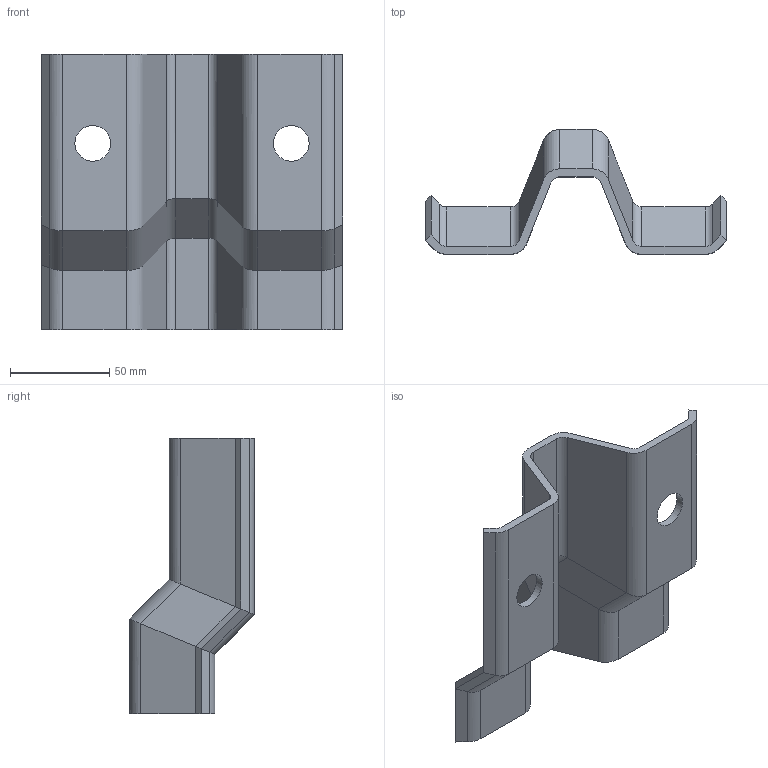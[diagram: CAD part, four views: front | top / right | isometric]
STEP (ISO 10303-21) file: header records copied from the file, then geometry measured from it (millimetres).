
FILE_DESCRIPTION(/* description */ (''),/* implementation_level */ '2;1');
FILE_NAME(/* name */ 'C175.stp',/* time_stamp */ '2023-07-03T10:42:47+02:00',/* author */ ('woriedl'),/* organization */ (''),/* preprocessor_version */ 'ST-DEVELOPER v19.2',/* originating_system */ 'AutoCAD Mechanical',/* authorisation */ '');
FILE_SCHEMA (('AUTOMOTIVE_DESIGN { 1 0 10303 214 3 1 1 }'));
Length unit declared in the file: centimetre
Products named in the file (1): Product
Bounding box: 151.72 x 63 x 139 mm (x, y, z)
Volume: 116866.4 mm3; surface area: 61678.4 mm2
Topology: 1 solids, 1 shells, 88 faces, 202 edges, 116 vertices
Faces by surface type: plane 50, cylinder 38
Full cylindrical faces by diameter (mm): 18 x2
Entity records: 2441 total; most frequent: DIRECTION 432, CARTESIAN_POINT 407, ORIENTED_EDGE 404, EDGE_CURVE 202, LINE 150, VECTOR 150, AXIS2_PLACEMENT_3D 141, VERTEX_POINT 116
